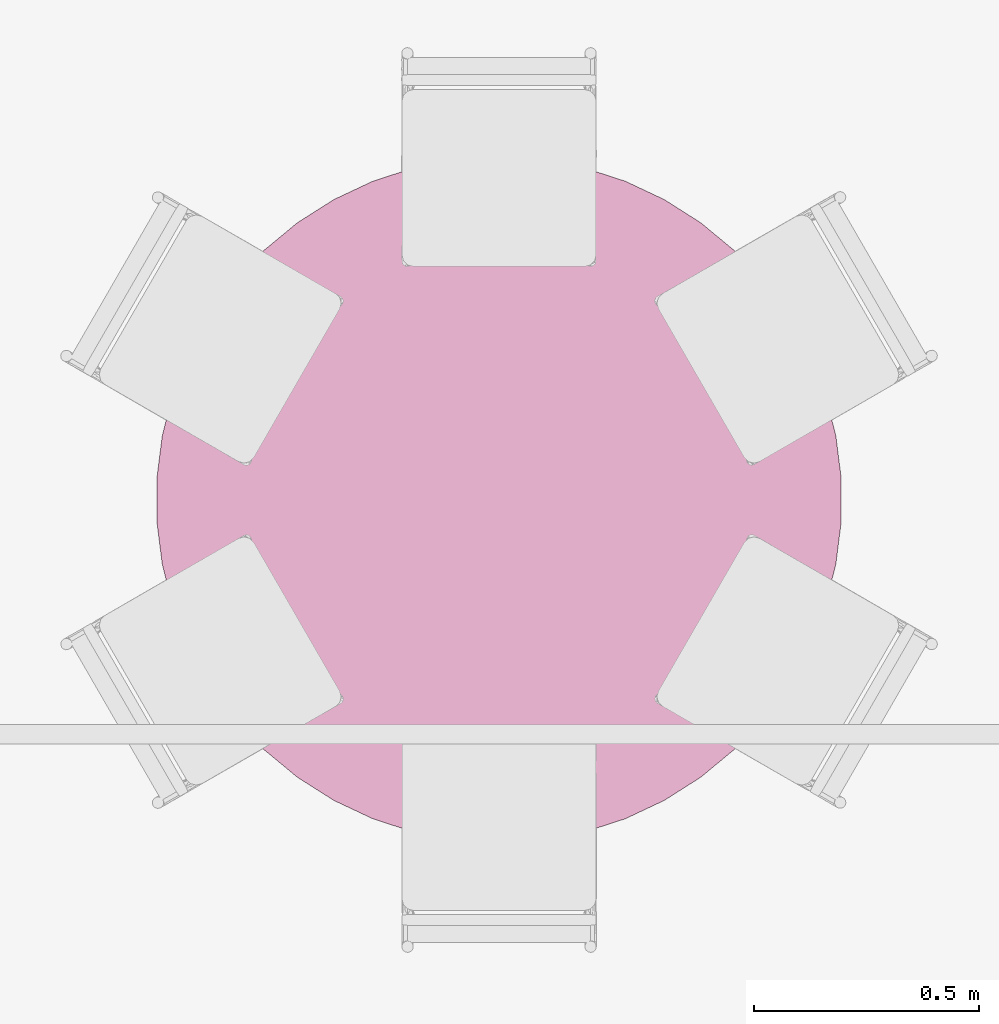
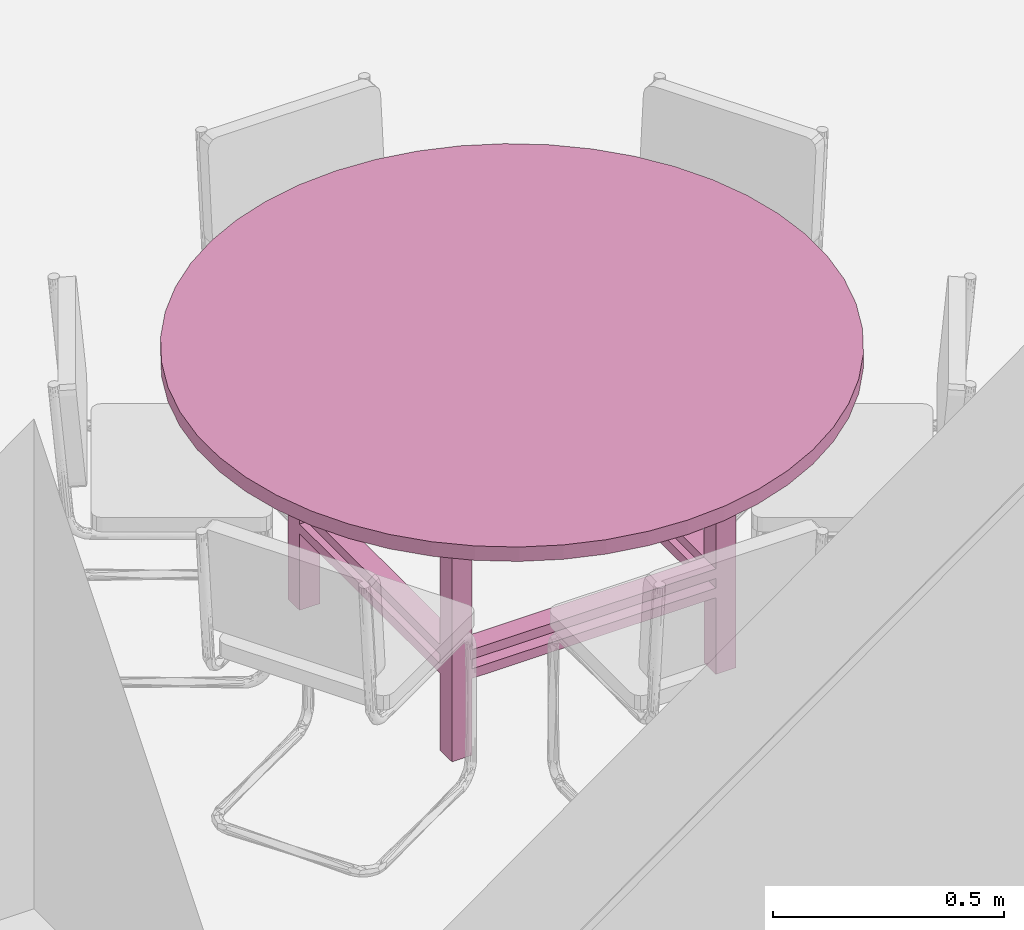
# One storey, part 23 of 25: 1 furnishing.
"""IFC2X3 building model written with IfcOpenShell, lengths in millimetres."""

from ifc_helpers import new_model, entity, si_unit, converted_unit, derived_unit, direction, frame, origin, place, context, subcontext, project, spatial, faceted_brep, source, transform, mapped, material, material_list, type_object, type_shapes, element, save


model = new_model("IFC2X3")

# Units and contexts
model_context = context("Model", 3, precision=0.01, world=origin(), true_north=direction((6.12303176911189e-17, 1.0)))
context_of_model = context(None, 3, precision=0.01, world=origin(), true_north=direction((6.12303176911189e-17, 1.0)))
body_context = subcontext(model_context, "Body", "Model", "MODEL_VIEW")
ifc_project = project(units=[si_unit("LENGTHUNIT", "METRE", prefix="MILLI"), si_unit("AREAUNIT", "SQUARE_METRE"), si_unit("VOLUMEUNIT", "CUBIC_METRE"), converted_unit("PLANEANGLEUNIT", "DEGREE", entity("IfcRatioMeasure", 0.0174532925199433), si_unit("PLANEANGLEUNIT", "RADIAN"), dimensions=[0, 0, 0, 0, 0, 0, 0]), si_unit("MASSUNIT", "GRAM", prefix="KILO"), derived_unit("MASSDENSITYUNIT", [(si_unit("MASSUNIT", "GRAM", prefix="KILO"), 1), (si_unit("LENGTHUNIT", "METRE"), -3)]), si_unit("TIMEUNIT", "SECOND"), si_unit("FREQUENCYUNIT", "HERTZ"), si_unit("THERMODYNAMICTEMPERATUREUNIT", "DEGREE_CELSIUS"), derived_unit("THERMALTRANSMITTANCEUNIT", [(si_unit("MASSUNIT", "GRAM", prefix="KILO"), 1), (si_unit("THERMODYNAMICTEMPERATUREUNIT", "KELVIN"), -1), (si_unit("TIMEUNIT", "SECOND"), -3)]), derived_unit("VOLUMETRICFLOWRATEUNIT", [(si_unit("LENGTHUNIT", "METRE"), 3), (si_unit("TIMEUNIT", "SECOND"), -1)]), si_unit("ELECTRICCURRENTUNIT", "AMPERE"), si_unit("ELECTRICVOLTAGEUNIT", "VOLT"), si_unit("POWERUNIT", "WATT"), si_unit("FORCEUNIT", "NEWTON", prefix="KILO"), si_unit("ILLUMINANCEUNIT", "LUX"), si_unit("LUMINOUSFLUXUNIT", "LUMEN"), si_unit("LUMINOUSINTENSITYUNIT", "CANDELA"), derived_unit("USERDEFINED", [(si_unit("MASSUNIT", "GRAM", prefix="KILO"), -1), (si_unit("LENGTHUNIT", "METRE"), -2), (si_unit("TIMEUNIT", "SECOND"), 3), (si_unit("LUMINOUSFLUXUNIT", "LUMEN"), 1)]), derived_unit("LINEARVELOCITYUNIT", [(si_unit("LENGTHUNIT", "METRE"), 1), (si_unit("TIMEUNIT", "SECOND"), -1)]), si_unit("PRESSUREUNIT", "PASCAL"), derived_unit("USERDEFINED", [(si_unit("LENGTHUNIT", "METRE"), -2), (si_unit("MASSUNIT", "GRAM", prefix="KILO"), 1), (si_unit("TIMEUNIT", "SECOND"), -2)])], contexts=[model_context, context_of_model])

# Site, building, storey, space
site_placement = place(None, frame((121442.264707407, 135347.995453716, -1800.0)))
site = spatial("IfcSite", under=ifc_project, at=site_placement, Name="Surface", CompositionType="ELEMENT")
building_placement = place(site_placement, origin())
building = spatial("IfcBuilding", under=site, at=building_placement, CompositionType="ELEMENT")
storey_placement = place(building_placement, frame((0.0, 0.0, 1800.0)))
storey = spatial("IfcBuildingStorey", under=building, at=storey_placement, Name="1 korrus", CompositionType="ELEMENT", Elevation=1800.00000000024)
space_placement = place(storey_placement, origin())
space = spatial("IfcSpace", under=storey, at=space_placement, Name="116", CompositionType="ELEMENT", InteriorOrExteriorSpace="INTERNAL")

# Furnishing
ifc_material_1 = material(Name="Pine")
ifc_material_2 = material(Name="Laminate, Linen, Matte")
ifc_material_list_1 = material_list([ifc_material_1, ifc_material_2])
ifc_material_list_2 = material_list([ifc_material_1, ifc_material_2])
furniture_type = type_object("IfcFurnitureType", Name="1525mm Diameter", AssemblyPlace="NOTDEFINED", material=ifc_material_list_2)
shared_shape = source(origin(), body_context, "Body", "Brep", [
    faceted_brep([(408.731967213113, 170.971311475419, 647.7), (408.731967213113, 120.171311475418, 647.7), (459.531967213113, 120.171311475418, 647.7), (459.531967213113, 170.971311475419, 647.7), (-201.368032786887, 170.971311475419, 0.0), (-201.368032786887, 120.171311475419, 0.0), (-252.168032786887, 120.171311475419, 0.0), (-252.168032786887, 170.971311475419, 0.0), (-252.168032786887, 170.971311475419, 647.7), (-201.368032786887, 170.971311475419, 647.7), (-201.368032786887, 170.971311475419, 279.4), (408.731967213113, 170.971311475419, 279.4), (459.531967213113, 170.971311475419, 0.0), (408.731967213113, 170.971311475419, 0.0), (408.731967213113, 170.971311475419, 203.2), (-201.368032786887, 170.971311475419, 203.2), (408.731967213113, 170.971311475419, 228.6), (408.731967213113, 170.971311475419, 254.0), (-201.368032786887, 170.971311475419, 254.0), (-201.368032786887, 170.971311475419, 228.6), (-252.168032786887, 120.171311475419, 647.7), (-252.168032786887, 120.171311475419, 203.2), (-252.168032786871, -489.928688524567, 203.2), (-252.168032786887, -489.928688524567, 0.0), (-252.168032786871, -540.728688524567, 0.0), (-252.168032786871, -540.728688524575, 647.7), (-252.168032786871, -489.928688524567, 647.7), (-252.168032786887, -489.928688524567, 279.4), (-252.168032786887, 120.171311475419, 279.4), (-252.168032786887, 120.171311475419, 228.6), (-252.168032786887, 120.171311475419, 254.0), (-252.168032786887, -489.928688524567, 254.0), (-252.168032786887, -489.928688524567, 228.6), (-201.368032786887, 120.171311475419, 647.7), (-201.368032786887, 120.171311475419, 279.4), (408.731967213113, 120.171311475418, 279.4), (459.531967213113, 120.171311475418, 279.4), (459.53196721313, -489.928688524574, 279.4), (459.53196721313, -489.928688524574, 647.7), (459.53196721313, -540.728688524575, 647.7), (459.531967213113, -540.728688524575, 0.0), (459.53196721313, -489.928688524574, 0.0), (459.53196721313, -489.928688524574, 203.2), (459.531967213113, 120.171311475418, 203.2), (459.531967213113, 120.171311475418, 0.0), (459.53196721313, -489.928688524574, 228.6), (459.53196721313, -489.928688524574, 254.0), (459.531967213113, 120.171311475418, 254.0), (459.531967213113, 120.171311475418, 228.6), (408.73196721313, -540.728688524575, 647.7), (408.73196721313, -540.728688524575, 279.4), (-201.368032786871, -540.728688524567, 279.4), (-201.368032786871, -540.728688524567, 647.7), (-201.368032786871, -540.728688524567, 0.0), (-201.368032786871, -540.728688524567, 203.2), (408.73196721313, -540.728688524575, 203.2), (408.73196721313, -540.728688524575, 0.0), (-201.368032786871, -540.728688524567, 228.6), (-201.368032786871, -540.728688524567, 254.0), (408.73196721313, -540.728688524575, 254.0), (408.73196721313, -540.728688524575, 228.6), (408.73196721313, -489.928688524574, 647.7), (408.73196721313, -489.928688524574, 279.4), (-201.368032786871, -489.928688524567, 647.7), (-201.368032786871, -489.928688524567, 279.4), (408.731967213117, 120.17131147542, 228.6), (408.731967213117, -489.928688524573, 228.6), (-201.368032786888, 120.17131147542, 203.2), (-201.368032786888, -489.928688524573, 203.2), (408.731967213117, 120.17131147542, 203.2), (408.731967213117, -489.928688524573, 203.2), (-201.368032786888, -489.928688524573, 228.6), (-201.368032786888, 120.171311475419, 228.6), (-201.368032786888, 120.17131147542, 254.0), (-201.368032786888, -489.928688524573, 254.0), (408.731967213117, 120.17131147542, 254.0), (408.731967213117, -489.928688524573, 254.0), (-201.368032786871, -489.928688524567, 0.0), (408.73196721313, -489.928688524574, 0.0), (408.731967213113, 120.171311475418, 0.0)], [[[0, 1, 2, 3]], [[4, 5, 6, 7]], [[8, 9, 10, 11, 0, 3, 12, 13, 14, 15, 4, 7], [16, 17, 18, 19]], [[20, 8, 7, 6, 21, 22, 23, 24, 25, 26, 27, 28], [29, 30, 31, 32]], [[33, 20, 28, 34]], [[9, 33, 34, 10]], [[1, 0, 11, 35]], [[2, 1, 35, 36]], [[12, 3, 2, 36, 37, 38, 39, 40, 41, 42, 43, 44], [45, 46, 47, 48]], [[40, 39, 49, 50, 51, 52, 25, 24, 53, 54, 55, 56], [57, 58, 59, 60]], [[61, 38, 37, 62]], [[49, 61, 62, 50]], [[63, 52, 51, 64]], [[26, 63, 64, 27]], [[65, 66, 45, 48]], [[67, 68, 22, 21]], [[66, 65, 69, 70]], [[71, 66, 70, 68]], [[72, 71, 68, 67]], [[65, 72, 67, 69]], [[35, 62, 37, 36]], [[73, 74, 31, 30]], [[62, 35, 75, 76]], [[64, 62, 76, 74]], [[34, 64, 74, 73]], [[35, 34, 73, 75]], [[74, 76, 59, 58]], [[75, 73, 18, 17]], [[76, 75, 47, 46]], [[62, 64, 51, 50]], [[64, 34, 28, 27]], [[34, 35, 11, 10]], [[68, 70, 55, 54]], [[69, 67, 15, 14]], [[70, 69, 43, 42]], [[66, 71, 57, 60]], [[71, 72, 29, 32]], [[72, 65, 16, 19]], [[71, 32, 31, 74]], [[77, 23, 22, 68]], [[57, 71, 74, 58]], [[53, 77, 68, 54]], [[66, 60, 59, 76]], [[78, 56, 55, 70]], [[45, 66, 76, 46]], [[41, 78, 70, 42]], [[65, 48, 47, 75]], [[79, 44, 43, 69]], [[16, 65, 75, 17]], [[13, 79, 69, 14]], [[72, 19, 18, 73]], [[5, 4, 15, 67]], [[29, 72, 73, 30]], [[6, 5, 67, 21]], [[53, 24, 23, 77]], [[13, 12, 44, 79]], [[56, 78, 41, 40]], [[49, 39, 38, 61]], [[52, 63, 26, 25]], [[9, 8, 20, 33]]]),
    faceted_brep([(484.93196721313, 196.371311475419, 723.9), (-277.568032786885, 196.371311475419, 723.9), (-277.568032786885, -566.128688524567, 723.9), (484.93196721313, -566.128688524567, 723.9), (459.53196721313, 170.971311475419, 723.9), (459.53196721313, -540.728688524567, 723.9), (-252.168032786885, -540.728688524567, 723.9), (-252.168032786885, 170.971311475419, 723.9), (484.93196721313, 196.371311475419, 647.7), (484.93196721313, -566.128688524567, 647.7), (-277.568032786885, -566.128688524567, 647.7), (-277.568032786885, 196.371311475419, 647.7), (459.53196721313, 170.971311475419, 647.7), (-252.168032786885, 170.971311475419, 647.7), (-252.168032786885, -540.728688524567, 647.7), (459.53196721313, -540.728688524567, 647.7)], [[[0, 1, 2, 3], [4, 5, 6, 7]], [[8, 9, 10, 11], [12, 13, 14, 15]], [[1, 0, 8, 11]], [[2, 1, 11, 10]], [[3, 2, 10, 9]], [[0, 3, 9, 8]], [[5, 4, 12, 15]], [[6, 5, 15, 14]], [[7, 6, 14, 13]], [[4, 7, 13, 12]]]),
    faceted_brep([(-586.248660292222, -509.535398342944, 723.900000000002), (-621.498626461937, -420.504146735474, 723.900000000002), (-645.312061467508, -327.756940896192, 723.900000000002), (-657.31341321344, -232.756459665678, 723.900000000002), (-657.31341321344, -137.000917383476, 723.900000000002), (-645.312061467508, -42.0004361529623, 723.900000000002), (-621.498626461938, 50.74676968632, 723.900000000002), (-586.248660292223, 139.77802129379, 723.900000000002), (-540.11807598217, 223.689242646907, 723.900000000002), (-483.834380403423, 301.157103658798, 723.900000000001), (-418.285201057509, 370.959889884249, 723.900000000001), (-344.504287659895, 431.99676968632, 723.900000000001), (-263.655209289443, 483.305155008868, 723.900000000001), (-177.013004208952, 524.075881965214, 723.9), (-85.944071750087, 553.665971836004, 723.9), (8.1153766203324, 571.608771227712, 723.9), (103.681967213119, 577.621311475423, 723.899999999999), (199.2485578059, 571.608771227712, 723.899999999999), (293.30800617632, 553.665971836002, 723.899999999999), (384.376938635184, 524.075881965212, 723.899999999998), (471.019143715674, 483.305155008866, 723.899999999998), (551.868222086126, 431.996769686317, 723.899999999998), (625.64913548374, 370.959889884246, 723.899999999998), (691.198314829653, 301.157103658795, 723.899999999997), (747.4820104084, 223.689242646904, 723.899999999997), (793.612594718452, 139.778021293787, 723.899999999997), (828.862560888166, 50.7467696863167, 723.899999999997), (852.675995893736, -42.0004361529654, 723.899999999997), (864.677347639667, -137.000917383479, 723.899999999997), (864.677347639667, -232.756459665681, 723.899999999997), (852.675995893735, -327.756940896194, 723.899999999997), (828.862560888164, -420.504146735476, 723.899999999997), (793.612594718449, -509.535398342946, 723.899999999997), (747.482010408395, -593.446619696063, 723.899999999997), (691.198314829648, -670.914480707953, 723.899999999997), (625.649135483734, -740.717266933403, 723.899999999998), (551.86822208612, -801.754146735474, 723.899999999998), (471.019143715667, -853.062532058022, 723.899999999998), (384.376938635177, -893.833259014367, 723.899999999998), (293.308006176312, -923.423348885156, 723.899999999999), (199.248557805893, -941.366148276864, 723.899999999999), (103.681967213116, -947.378688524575, 723.899999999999), (8.11537662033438, -941.366148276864, 723.9), (-85.9440717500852, -923.423348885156, 723.9), (-177.01300420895, -893.833259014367, 723.9), (-263.655209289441, -853.062532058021, 723.900000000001), (-344.504287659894, -801.754146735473, 723.900000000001), (-418.285201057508, -740.717266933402, 723.900000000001), (-483.834380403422, -670.914480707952, 723.900000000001), (-540.118075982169, -593.446619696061, 723.900000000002), (828.862560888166, 50.7467696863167, 762.0), (793.612594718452, 139.778021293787, 762.0), (747.4820104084, 223.689242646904, 762.0), (691.198314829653, 301.157103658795, 762.0), (625.64913548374, 370.959889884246, 762.0), (551.868222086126, 431.996769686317, 762.0), (471.019143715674, 483.305155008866, 762.0), (384.376938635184, 524.075881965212, 762.0), (293.30800617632, 553.665971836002, 762.0), (199.2485578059, 571.608771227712, 762.0), (103.681967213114, 577.621311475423, 762.0), (8.11537662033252, 571.608771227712, 762.0), (-85.9440717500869, 553.665971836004, 762.0), (-177.013004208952, 524.075881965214, 762.0), (-263.655209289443, 483.305155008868, 762.0), (-344.504287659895, 431.99676968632, 762.0), (-418.285201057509, 370.959889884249, 762.0), (-483.834380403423, 301.157103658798, 762.0), (-540.11807598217, 223.689242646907, 762.0), (-586.248660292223, 139.77802129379, 762.0), (-621.498626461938, 50.74676968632, 762.0), (-645.312061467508, -42.0004361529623, 762.0), (-657.31341321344, -137.000917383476, 762.0), (-657.31341321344, -232.756459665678, 762.0), (-645.312061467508, -327.756940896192, 762.0), (-621.498626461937, -420.504146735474, 762.0), (-586.248660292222, -509.535398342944, 762.0), (-540.118075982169, -593.446619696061, 762.0), (-483.834380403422, -670.914480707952, 762.0), (-418.285201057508, -740.717266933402, 762.0), (-344.504287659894, -801.754146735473, 762.0), (-263.655209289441, -853.062532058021, 762.0), (-177.01300420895, -893.833259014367, 762.0), (-85.9440717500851, -923.423348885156, 762.0), (8.1153766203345, -941.366148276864, 762.0), (103.681967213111, -947.378688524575, 762.0), (199.248557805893, -941.366148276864, 762.0), (293.308006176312, -923.423348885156, 762.0), (384.376938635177, -893.833259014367, 762.0), (471.019143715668, -853.062532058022, 762.0), (551.86822208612, -801.754146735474, 762.0), (625.649135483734, -740.717266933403, 762.0), (691.198314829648, -670.914480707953, 762.0), (747.482010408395, -593.446619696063, 762.0), (793.612594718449, -509.535398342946, 762.0), (828.862560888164, -420.504146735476, 762.0), (852.675995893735, -327.756940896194, 762.0), (864.677347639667, -232.756459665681, 762.0), (864.677347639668, -137.000917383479, 762.0), (852.675995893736, -42.0004361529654, 762.0)], [[[0, 1, 2, 3, 4, 5, 6, 7, 8, 9, 10, 11, 12, 13, 14, 15, 16, 17, 18, 19, 20, 21, 22, 23, 24, 25, 26, 27, 28, 29, 30, 31, 32, 33, 34, 35, 36, 37, 38, 39, 40, 41, 42, 43, 44, 45, 46, 47, 48, 49]], [[50, 51, 52, 53, 54, 55, 56, 57, 58, 59, 60, 61, 62, 63, 64, 65, 66, 67, 68, 69, 70, 71, 72, 73, 74, 75, 76, 77, 78, 79, 80, 81, 82, 83, 84, 85, 86, 87, 88, 89, 90, 91, 92, 93, 94, 95, 96, 97, 98, 99]], [[85, 84, 42, 41]], [[84, 83, 43, 42]], [[81, 45, 44, 82]], [[44, 43, 83, 82]], [[80, 46, 45, 81]], [[75, 1, 0, 76]], [[74, 2, 1, 75]], [[48, 47, 79, 78]], [[0, 49, 77, 76]], [[80, 79, 47, 46]], [[74, 73, 3, 2]], [[48, 78, 77, 49]], [[73, 72, 4, 3]], [[69, 7, 6, 70]], [[68, 8, 7, 69]], [[4, 72, 71, 5]], [[70, 6, 5, 71]], [[8, 68, 67, 9]], [[13, 63, 62, 14]], [[14, 62, 61, 15]], [[10, 66, 65, 11]], [[65, 64, 12, 11]], [[12, 64, 63, 13]], [[9, 67, 66, 10]], [[15, 61, 60, 16]], [[57, 19, 18, 58]], [[56, 20, 19, 57]], [[16, 60, 59, 17]], [[58, 18, 17, 59]], [[20, 56, 55, 21]], [[25, 51, 50, 26]], [[26, 50, 99, 27]], [[22, 54, 53, 23]], [[53, 52, 24, 23]], [[24, 52, 51, 25]], [[21, 55, 54, 22]], [[27, 99, 98, 28]], [[98, 97, 29, 28]], [[94, 32, 31, 95]], [[93, 33, 32, 94]], [[29, 97, 96, 30]], [[95, 31, 30, 96]], [[33, 93, 92, 34]], [[38, 88, 87, 39]], [[39, 87, 86, 40]], [[35, 91, 90, 36]], [[90, 89, 37, 36]], [[37, 89, 88, 38]], [[34, 92, 91, 35]], [[40, 86, 85, 41]]]),
])
type_shapes(furniture_type, [shared_shape])
furnishing_placement = place(space_placement, frame((-104706.651851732, -125829.889876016, 0.0)))
element("IfcFurnishingElement", 1, at=furnishing_placement, inside=space, type_object=furniture_type, material=ifc_material_list_1, Name="M_Table-Dining Round w Chairs:1525mm Diameter", ObjectType="1525mm Diameter", context=body_context, shape_type="MappedRepresentation", body=[
    mapped(shared_shape, transform((0.0, 0.0, 0.0), scale=1.0)),
])

save(model, "model.ifc")
